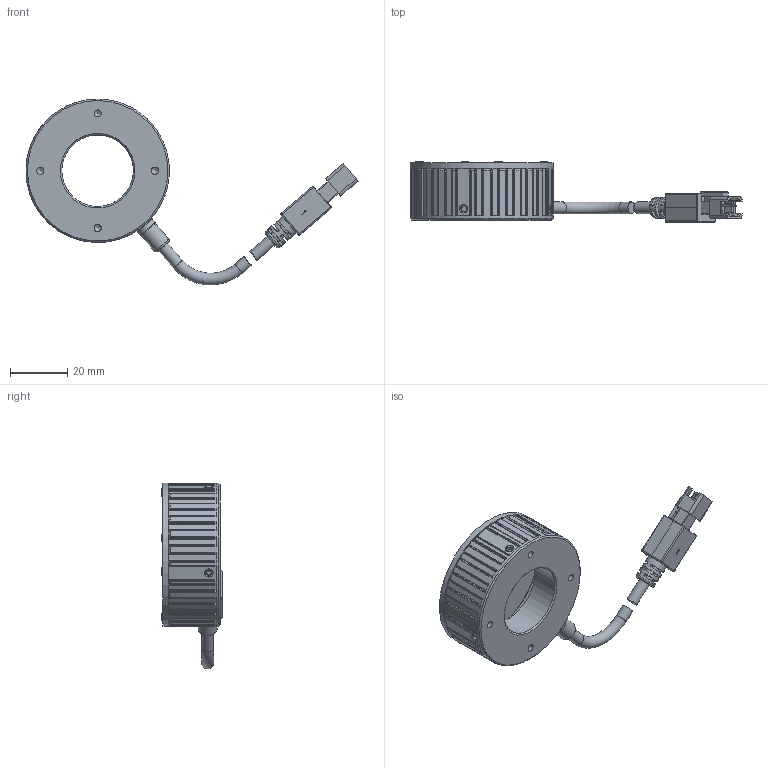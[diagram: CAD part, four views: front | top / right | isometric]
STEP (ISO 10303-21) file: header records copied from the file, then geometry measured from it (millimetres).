
FILE_DESCRIPTION (( 'STEP AP203' ), '1' );
FILE_NAME ('OPT-URI5000-UV-V1.0U 尨砩芞.STEP', '2024-12-11T00:12:05', ( '' ), ( '' ), 'SwSTEP 2.0', 'SolidWorks 2016', '' );
FILE_SCHEMA (( 'CONFIG_CONTROL_DESIGN' ));
Length unit declared in the file: millimetre
Products named in the file (1): OPT-URI5000-UV-V1.0U 尨砩芞
Bounding box: 115.84 x 21.25 x 64.84 mm (x, y, z)
Volume: 24783.8 mm3; surface area: 15992.9 mm2
Topology: 12 solids, 12 shells, 704 faces, 1849 edges, 1191 vertices
Faces by surface type: plane 369, cylinder 247, cone 59, bspline 21, torus 8
Full cylindrical faces by diameter (mm): 1.4 x8, 1.6 x4, 1.8 x4, 2 x4, 2.2 x4, 2.5 x4, 2.6 x4, 3.5 x1, 4.1 x4, 5.8 x1, 6.5 x1, 7 x1, 7.5 x1, 25 x2, 26.3 x1, 42.5 x1, 50 x2
Entity records: 22343 total; most frequent: CARTESIAN_POINT 5803, ORIENTED_EDGE 3460, DIRECTION 3240, EDGE_CURVE 1730, VERTEX_POINT 1161, AXIS2_PLACEMENT_3D 1140, LINE 960, VECTOR 960
